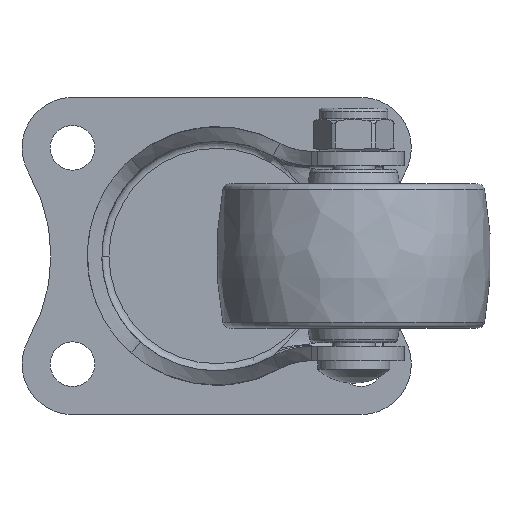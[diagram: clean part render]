
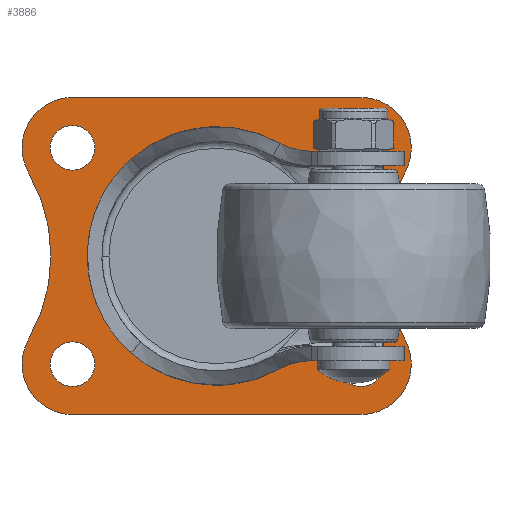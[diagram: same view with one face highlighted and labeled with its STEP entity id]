
A CAD part, front view. The second image highlights one B-rep face of the part: STEP entity #3886.
In plain terms, the highlighted planar face has unit normal (0, -1, 0).
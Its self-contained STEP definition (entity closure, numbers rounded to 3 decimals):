
#1122=CARTESIAN_POINT('',(0.,-2.,0.));
#1123=DIRECTION('',(0.,1.,0.));
#1124=DIRECTION('',(-1.,0.,0.));
#1125=AXIS2_PLACEMENT_3D('',#1122,#1123,#1124);
#1132=CARTESIAN_POINT('',(0.,-2.,0.));
#1133=DIRECTION('',(0.,-1.,0.));
#1134=DIRECTION('',(-1.,0.,0.));
#1135=AXIS2_PLACEMENT_3D('',#1132,#1133,#1134);
#1137=CARTESIAN_POINT('',(-20.,-2.,-15.));
#1138=DIRECTION('',(0.,-1.,0.));
#1139=DIRECTION('',(1.,0.,0.));
#1140=AXIS2_PLACEMENT_3D('',#1137,#1138,#1139);
#1142=CARTESIAN_POINT('',(-20.,-2.,-15.));
#1143=DIRECTION('',(0.,-1.,0.));
#1144=DIRECTION('',(-1.,0.,0.));
#1145=AXIS2_PLACEMENT_3D('',#1142,#1143,#1144);
#1147=CARTESIAN_POINT('',(20.,-2.,-15.));
#1148=DIRECTION('',(0.,-1.,0.));
#1149=DIRECTION('',(1.,0.,0.));
#1150=AXIS2_PLACEMENT_3D('',#1147,#1148,#1149);
#1152=CARTESIAN_POINT('',(20.,-2.,-15.));
#1153=DIRECTION('',(0.,-1.,0.));
#1154=DIRECTION('',(-1.,0.,0.));
#1155=AXIS2_PLACEMENT_3D('',#1152,#1153,#1154);
#1157=CARTESIAN_POINT('',(20.,-2.,15.));
#1158=DIRECTION('',(0.,-1.,0.));
#1159=DIRECTION('',(1.,0.,0.));
#1160=AXIS2_PLACEMENT_3D('',#1157,#1158,#1159);
#1162=CARTESIAN_POINT('',(20.,-2.,15.));
#1163=DIRECTION('',(0.,-1.,0.));
#1164=DIRECTION('',(-1.,0.,0.));
#1165=AXIS2_PLACEMENT_3D('',#1162,#1163,#1164);
#1167=CARTESIAN_POINT('',(-20.,-2.,15.));
#1168=DIRECTION('',(0.,-1.,0.));
#1169=DIRECTION('',(1.,0.,0.));
#1170=AXIS2_PLACEMENT_3D('',#1167,#1168,#1169);
#1172=CARTESIAN_POINT('',(-20.,-2.,15.));
#1173=DIRECTION('',(0.,-1.,0.));
#1174=DIRECTION('',(-1.,0.,0.));
#1175=AXIS2_PLACEMENT_3D('',#1172,#1173,#1174);
#1177=CARTESIAN_POINT('',(-20.,-2.,-15.));
#1178=DIRECTION('',(0.,-1.,0.));
#1179=DIRECTION('',(-0.866,0.,0.5));
#1180=AXIS2_PLACEMENT_3D('',#1177,#1178,#1179);
#1182=CARTESIAN_POINT('',(-45.981,-2.,0.));
#1183=DIRECTION('',(0.,-1.,0.));
#1184=DIRECTION('',(0.866,0.,-0.5));
#1185=AXIS2_PLACEMENT_3D('',#1182,#1183,#1184);
#1187=CARTESIAN_POINT('',(-20.,-2.,15.));
#1188=DIRECTION('',(0.,-1.,0.));
#1189=DIRECTION('',(0.,0.,1.));
#1190=AXIS2_PLACEMENT_3D('',#1187,#1188,#1189);
#1192=DIRECTION('',(-1.,0.,0.));
#1193=VECTOR('',#1192,40.);
#1194=CARTESIAN_POINT('',(20.,-2.,22.));
#1195=LINE('',#1194,#1193);
#1196=CARTESIAN_POINT('',(20.,-2.,15.));
#1197=DIRECTION('',(0.,-1.,0.));
#1198=DIRECTION('',(0.866,0.,-0.5));
#1199=AXIS2_PLACEMENT_3D('',#1196,#1197,#1198);
#1201=CARTESIAN_POINT('',(45.981,-2.,0.));
#1202=DIRECTION('',(0.,-1.,0.));
#1203=DIRECTION('',(-0.866,0.,0.5));
#1204=AXIS2_PLACEMENT_3D('',#1201,#1202,#1203);
#1206=CARTESIAN_POINT('',(20.,-2.,-15.));
#1207=DIRECTION('',(0.,-1.,0.));
#1208=DIRECTION('',(0.,0.,-1.));
#1209=AXIS2_PLACEMENT_3D('',#1206,#1207,#1208);
#1211=DIRECTION('',(1.,0.,0.));
#1212=VECTOR('',#1211,40.);
#1213=CARTESIAN_POINT('',(-20.,-2.,-22.));
#1214=LINE('',#1213,#1212);
#1585=CARTESIAN_POINT('',(-12.934,-2.,0.));
#1587=VERTEX_POINT('',#1585);
#1601=CARTESIAN_POINT('',(12.934,-2.,0.));
#1603=VERTEX_POINT('',#1601);
#1647=CARTESIAN_POINT('',(-16.9,-2.,-15.));
#1648=CARTESIAN_POINT('',(-23.1,-2.,-15.));
#1649=VERTEX_POINT('',#1647);
#1650=VERTEX_POINT('',#1648);
#1651=CARTESIAN_POINT('',(23.1,-2.,-15.));
#1652=CARTESIAN_POINT('',(16.9,-2.,-15.));
#1653=VERTEX_POINT('',#1651);
#1654=VERTEX_POINT('',#1652);
#1655=CARTESIAN_POINT('',(23.1,-2.,15.));
#1656=CARTESIAN_POINT('',(16.9,-2.,15.));
#1657=VERTEX_POINT('',#1655);
#1658=VERTEX_POINT('',#1656);
#1659=CARTESIAN_POINT('',(-16.9,-2.,15.));
#1660=CARTESIAN_POINT('',(-23.1,-2.,15.));
#1661=VERTEX_POINT('',#1659);
#1662=VERTEX_POINT('',#1660);
#1663=CARTESIAN_POINT('',(-26.062,-2.,-11.5));
#1664=CARTESIAN_POINT('',(-20.,-2.,-22.));
#1665=VERTEX_POINT('',#1663);
#1666=VERTEX_POINT('',#1664);
#1667=CARTESIAN_POINT('',(-26.062,-2.,11.5));
#1668=VERTEX_POINT('',#1667);
#1669=CARTESIAN_POINT('',(-20.,-2.,22.));
#1670=VERTEX_POINT('',#1669);
#1671=CARTESIAN_POINT('',(20.,-2.,22.));
#1672=VERTEX_POINT('',#1671);
#1673=CARTESIAN_POINT('',(26.062,-2.,11.5));
#1674=VERTEX_POINT('',#1673);
#1675=CARTESIAN_POINT('',(26.062,-2.,-11.5));
#1676=VERTEX_POINT('',#1675);
#1677=CARTESIAN_POINT('',(20.,-2.,-22.));
#1678=VERTEX_POINT('',#1677);
#3835=CARTESIAN_POINT('',(0.,-2.,0.));
#3836=DIRECTION('',(0.,-1.,0.));
#3837=DIRECTION('',(-1.,0.,0.));
#3838=AXIS2_PLACEMENT_3D('',#3835,#3836,#3837);
#3839=PLANE('',#3838);
#3841=ORIENTED_EDGE('',*,*,#3840,.F.);
#3843=ORIENTED_EDGE('',*,*,#3842,.T.);
#3845=ORIENTED_EDGE('',*,*,#3844,.F.);
#3847=ORIENTED_EDGE('',*,*,#3846,.F.);
#3849=ORIENTED_EDGE('',*,*,#3848,.F.);
#3851=ORIENTED_EDGE('',*,*,#3850,.T.);
#3853=ORIENTED_EDGE('',*,*,#3852,.F.);
#3855=ORIENTED_EDGE('',*,*,#3854,.F.);
#3856=EDGE_LOOP('',(#3841,#3843,#3845,#3847,#3849,#3851,#3853,#3855));
#3857=FACE_OUTER_BOUND('',#3856,.F.);
#3859=ORIENTED_EDGE('',*,*,#3858,.T.);
#3861=ORIENTED_EDGE('',*,*,#3860,.T.);
#3862=EDGE_LOOP('',(#3859,#3861));
#3863=FACE_BOUND('',#3862,.F.);
#3865=ORIENTED_EDGE('',*,*,#3864,.T.);
#3867=ORIENTED_EDGE('',*,*,#3866,.T.);
#3868=EDGE_LOOP('',(#3865,#3867));
#3869=FACE_BOUND('',#3868,.F.);
#3871=ORIENTED_EDGE('',*,*,#3870,.T.);
#3873=ORIENTED_EDGE('',*,*,#3872,.T.);
#3874=EDGE_LOOP('',(#3871,#3873));
#3875=FACE_BOUND('',#3874,.F.);
#3877=ORIENTED_EDGE('',*,*,#3876,.T.);
#3879=ORIENTED_EDGE('',*,*,#3878,.T.);
#3880=EDGE_LOOP('',(#3877,#3879));
#3881=FACE_BOUND('',#3880,.F.);
#3882=ORIENTED_EDGE('',*,*,#3814,.F.);
#3883=ORIENTED_EDGE('',*,*,#3830,.T.);
#3884=EDGE_LOOP('',(#3882,#3883));
#3885=FACE_BOUND('',#3884,.F.);
#1126=CIRCLE('',#1125,12.934);
#1136=CIRCLE('',#1135,12.934);
#1141=CIRCLE('',#1140,3.1);
#1146=CIRCLE('',#1145,3.1);
#1151=CIRCLE('',#1150,3.1);
#1156=CIRCLE('',#1155,3.1);
#1161=CIRCLE('',#1160,3.1);
#1166=CIRCLE('',#1165,3.1);
#1171=CIRCLE('',#1170,3.1);
#1176=CIRCLE('',#1175,3.1);
#1181=CIRCLE('',#1180,7.);
#1186=CIRCLE('',#1185,23.);
#1191=CIRCLE('',#1190,7.);
#1200=CIRCLE('',#1199,7.);
#1205=CIRCLE('',#1204,23.);
#1210=CIRCLE('',#1209,7.);
#3814=EDGE_CURVE('',#1587,#1603,#1126,.T.);
#3830=EDGE_CURVE('',#1587,#1603,#1136,.T.);
#3840=EDGE_CURVE('',#1665,#1666,#1181,.T.);
#3842=EDGE_CURVE('',#1665,#1668,#1186,.T.);
#3844=EDGE_CURVE('',#1670,#1668,#1191,.T.);
#3846=EDGE_CURVE('',#1672,#1670,#1195,.T.);
#3848=EDGE_CURVE('',#1674,#1672,#1200,.T.);
#3850=EDGE_CURVE('',#1674,#1676,#1205,.T.);
#3852=EDGE_CURVE('',#1678,#1676,#1210,.T.);
#3854=EDGE_CURVE('',#1666,#1678,#1214,.T.);
#3858=EDGE_CURVE('',#1649,#1650,#1141,.T.);
#3860=EDGE_CURVE('',#1650,#1649,#1146,.T.);
#3864=EDGE_CURVE('',#1653,#1654,#1151,.T.);
#3866=EDGE_CURVE('',#1654,#1653,#1156,.T.);
#3870=EDGE_CURVE('',#1657,#1658,#1161,.T.);
#3872=EDGE_CURVE('',#1658,#1657,#1166,.T.);
#3876=EDGE_CURVE('',#1661,#1662,#1171,.T.);
#3878=EDGE_CURVE('',#1662,#1661,#1176,.T.);
#3886=ADVANCED_FACE('',(#3857,#3863,#3869,#3875,#3881,#3885),#3839,.T.);
